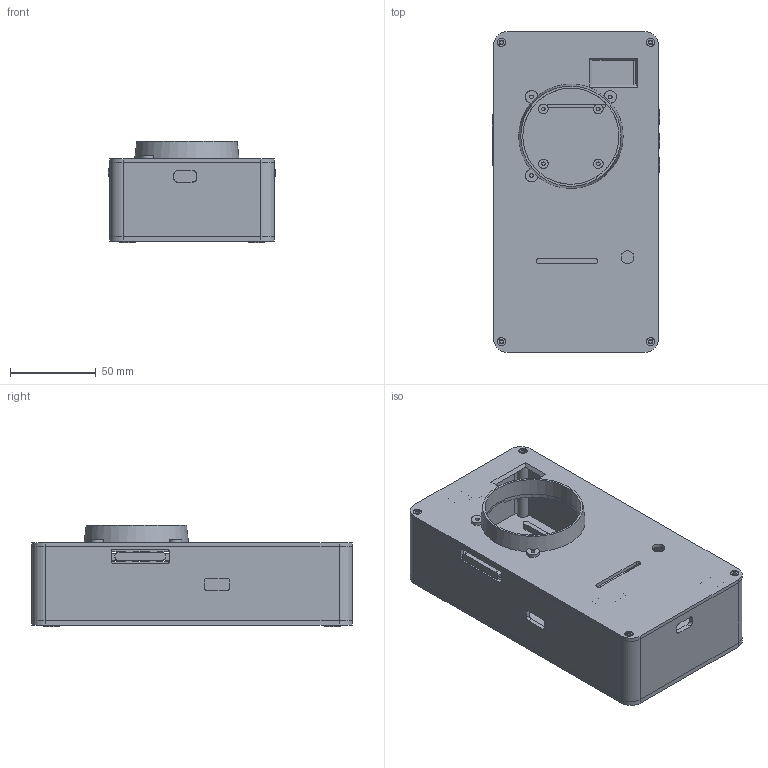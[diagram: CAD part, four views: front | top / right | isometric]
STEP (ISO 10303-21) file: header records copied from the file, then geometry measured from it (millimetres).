
FILE_DESCRIPTION(('Open CASCADE Model'),'2;1');
FILE_NAME('Open CASCADE Shape Model','2026-11-21T20:31:38',('Author'),( 'Open CASCADE'),'Open CASCADE STEP processor 7.9','Open CASCADE 7.9' ,'Unknown');
FILE_SCHEMA(('AUTOMOTIVE_DESIGN { 1 0 10303 214 1 1 1 1 }'));
Length unit declared in the file: millimetre
Products named in the file (14): DSH-5 Rev D enclosure; Side chassis; Aluminum control plate; Rear lid with recessed logo; Platter surround; Rear logo inlay; RECORD button plunger; MIX button plunger; PLAY button plunger; Speed seesaw coupling cap; Rear rubber foot 1; Rear rubber foot 2; Rear rubber foot 3; Rear rubber foot 4
Assembly tree (13 placements, depth 2):
  DSH-5 Rev D enclosure
    Side chassis
    Aluminum control plate
    Rear lid with recessed logo
    Platter surround
    Rear logo inlay
    RECORD button plunger
    MIX button plunger
    PLAY button plunger
    Speed seesaw coupling cap
    Rear rubber foot 1
    Rear rubber foot 2
    Rear rubber foot 3
    Rear rubber foot 4
Bounding box: 97.9 x 187.1 x 59.18 mm (x, y, z)
Volume: 151022.2 mm3; surface area: 131444.9 mm2
Topology: 13 solids, 13 shells, 610 faces, 1635 edges, 1090 vertices
Faces by surface type: plane 445, cylinder 160, bspline 4, cone 1
Full cylindrical faces by diameter (mm): 2.05 x8, 2.08 x7, 2.15 x7, 2.65 x4, 2.7 x4, 4.9 x4, 5.1 x4, 5.35 x3, 5.55 x4, 6.6 x1, 7.45 x1, 9.2 x4, 10.4 x2, 56.1 x2
Entity records: 40599 total; most frequent: CARTESIAN_POINT 7988, DIRECTION 5826, LINE 3714, VECTOR 3714, ORIENTED_EDGE 3270, PCURVE 3270, DEFINITIONAL_REPRESENTATION 3270, EDGE_CURVE 1635
